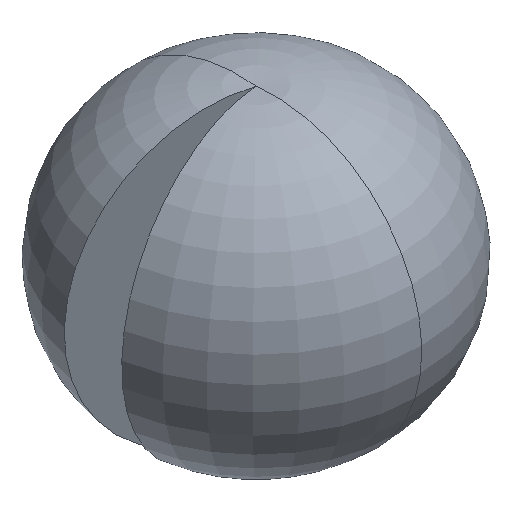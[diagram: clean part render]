
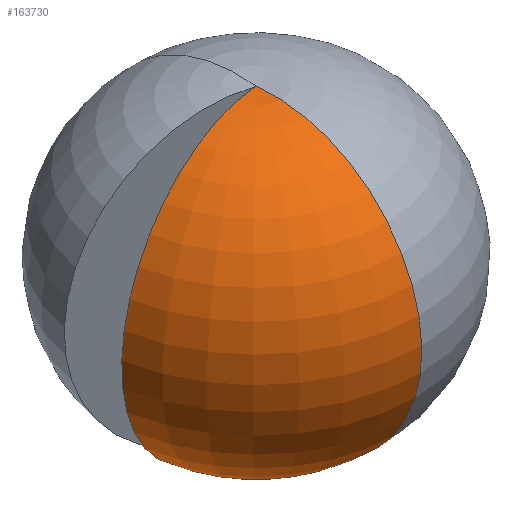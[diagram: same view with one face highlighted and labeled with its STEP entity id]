
A CAD part, isometric view. The second image highlights one B-rep face of the part: STEP entity #163730.
In plain terms, the highlighted toroidal (fillet/blend) face has major radius 320.127 mm and minor radius 2680.37 mm.
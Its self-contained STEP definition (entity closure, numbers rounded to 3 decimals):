
#5684 = EDGE_CURVE ( 'NONE', #228853, #120026, #49443, .T. ) ;
#25737 = DIRECTION ( 'NONE',  ( 0., -1., 0. ) ) ;
#48030 = AXIS2_PLACEMENT_3D ( 'NONE', #315460, #264809, #68107 ) ;
#49443 = CIRCLE ( 'NONE', #262438, 1857.524 ) ;
#54200 = ORIENTED_EDGE ( 'NONE', *, *, #327454, .T. ) ;
#67925 = DIRECTION ( 'NONE',  ( 0., 0., 1. ) ) ;
#68107 = DIRECTION ( 'NONE',  ( 0., -1., 0. ) ) ;
#72858 = CIRCLE ( 'NONE', #193980, 2680.371 ) ;
#81792 = AXIS2_PLACEMENT_3D ( 'NONE', #315280, #67925, #150909 ) ;
#84717 = ORIENTED_EDGE ( 'NONE', *, *, #189350, .F. ) ;
#92090 = DIRECTION ( 'NONE',  ( -0.985, -0.174, 0. ) ) ;
#115426 = VERTEX_POINT ( 'NONE', #180542 ) ;
#120026 = VERTEX_POINT ( 'NONE', #295073 ) ;
#150909 = DIRECTION ( 'NONE',  ( 0., -1., 0. ) ) ;
#157445 = CIRCLE ( 'NONE', #48030, 2680.371 ) ;
#163730 = ADVANCED_FACE ( 'NONE', ( #317051 ), #185640, .T. ) ;
#166128 = EDGE_LOOP ( 'NONE', ( #187276, #54200, #84717 ) ) ;
#180542 = CARTESIAN_POINT ( 'NONE',  ( 0., 0., 3331.185 ) ) ;
#185640 = TOROIDAL_SURFACE ( 'NONE', #81792, 320.127, 2680.371 ) ;
#187276 = ORIENTED_EDGE ( 'NONE', *, *, #5684, .T. ) ;
#189350 = EDGE_CURVE ( 'NONE', #228853, #115426, #72858, .T. ) ;
#193980 = AXIS2_PLACEMENT_3D ( 'NONE', #229294, #339488, #92090 ) ;
#216994 = DIRECTION ( 'NONE',  ( 0., 0., 1. ) ) ;
#228853 = VERTEX_POINT ( 'NONE', #231055 ) ;
#229294 = CARTESIAN_POINT ( 'NONE',  ( -315.264, -55.589, 670. ) ) ;
#231055 = CARTESIAN_POINT ( 'NONE',  ( -1829.304, -322.556, -1525.631 ) ) ;
#262438 = AXIS2_PLACEMENT_3D ( 'NONE', #325369, #216994, #25737 ) ;
#264809 = DIRECTION ( 'NONE',  ( -1., 0., 0. ) ) ;
#295073 = CARTESIAN_POINT ( 'NONE',  ( 0., -1857.524, -1525.631 ) ) ;
#315280 = CARTESIAN_POINT ( 'NONE',  ( 0., 0., 670. ) ) ;
#315460 = CARTESIAN_POINT ( 'NONE',  ( 0., -320.127, 670. ) ) ;
#317051 = FACE_OUTER_BOUND ( 'NONE', #166128, .T. ) ;
#325369 = CARTESIAN_POINT ( 'NONE',  ( 0., 0., -1525.631 ) ) ;
#327454 = EDGE_CURVE ( 'NONE', #120026, #115426, #157445, .T. ) ;
#339488 = DIRECTION ( 'NONE',  ( -0.174, 0.985, 0. ) ) ;
